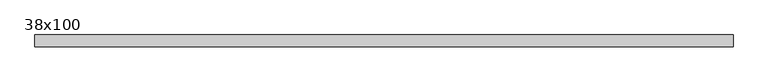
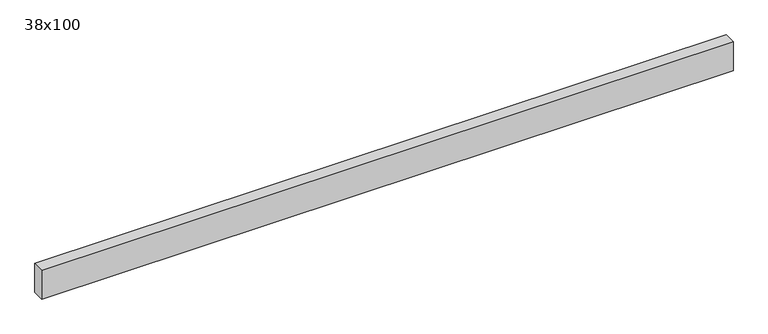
"""IFC4 building model written with IfcOpenShell, lengths in millimetres: beam geometry, Poutre - Bois de construction de dimensions courantes : 38x100."""

from ifc_helpers import new_model, si_unit, frame, origin, place, context, project, spatial, polyline, outline, extrude, source, transform, mapped, element, save


def beam_38x100_c7647e72(model_context):
    return source(origin(), model_context, "Body", "SweptSolid", [
        extrude(outline(polyline([(1048.0, 19.05), (1048.0, -19.05), (-1208.0, -19.05), (-1208.0, 19.05), (1048.0, 19.05)])), frame((0.0, 0.0, -50.0), z_axis=(0.0, 0.0, 1.0), x_axis=(1.0, 0.0, 0.0)), (0.0, 0.0, 1.0), 100.0),
    ])


if __name__ == "__main__":
    model = new_model("IFC4")
    model_context = context("Model", 3, world=origin())
    ifc_project = project(units=[si_unit("LENGTHUNIT", "METRE", prefix="MILLI")], contexts=[model_context])
    site = spatial("IfcSite", under=ifc_project)
    building = spatial("IfcBuilding", under=site)
    placement = place(None, origin())
    beam_38x100_shape = beam_38x100_c7647e72(model_context)
    element("IfcBeam", 1, ObjectType="Poutre - Bois de construction de dimensions courantes : 38x100", at=placement, inside=building, context=model_context, shape_type="MappedRepresentation", body=[
        mapped(beam_38x100_shape, transform((0.0, 0.0, 0.0), x_axis=(1.0, 0.0, 0.0), y_axis=(0.0, 1.0, 0.0), z_axis=(0.0, 0.0, 1.0))),
    ])
    save(model, "model.ifc")
